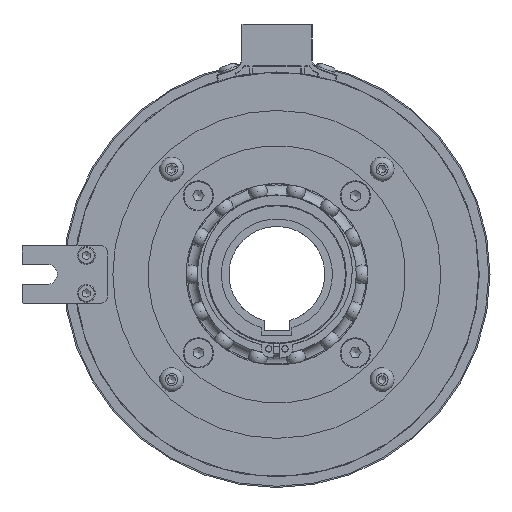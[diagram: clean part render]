
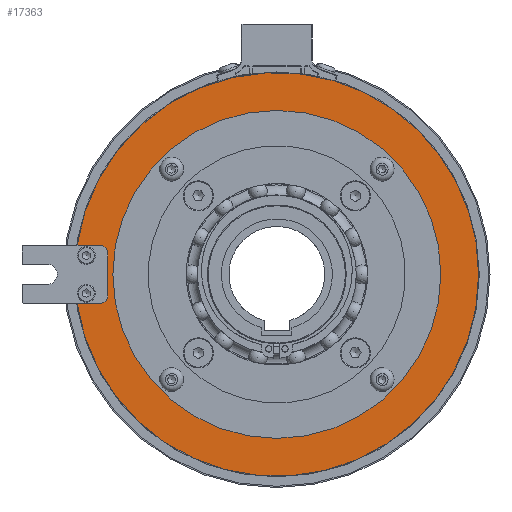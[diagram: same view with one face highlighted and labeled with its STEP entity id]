
A CAD part, left-side view. The second image highlights one B-rep face of the part: STEP entity #17363.
In plain terms, the highlighted planar face has unit normal (-1, 0, 0).
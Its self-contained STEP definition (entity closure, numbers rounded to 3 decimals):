
#1168=FACE_BOUND('',#3431,.T.);
#1681=PLANE('',#19022);
#2422=FACE_OUTER_BOUND('',#3430,.T.);
#3430=EDGE_LOOP('',(#14339,#14340,#14341,#14342,#14343,#14344,#14345,#14346));
#3431=EDGE_LOOP('',(#14347,#14348));
#4373=LINE('',#28266,#5262);
#4383=LINE('',#28294,#5272);
#4395=LINE('',#28324,#5284);
#5262=VECTOR('',#22413,10.);
#5272=VECTOR('',#22439,10.);
#5284=VECTOR('',#22471,10.);
#6035=CIRCLE('',#18348,80.);
#6038=CIRCLE('',#18351,80.);
#6077=CIRCLE('',#18416,80.);
#6245=CIRCLE('',#18751,3.);
#6247=CIRCLE('',#18755,3.);
#6401=CIRCLE('',#19023,65.);
#6402=CIRCLE('',#19024,65.);
#7423=VERTEX_POINT('',#26965);
#7428=VERTEX_POINT('',#26975);
#7429=VERTEX_POINT('',#26977);
#7431=VERTEX_POINT('',#26981);
#7704=VERTEX_POINT('',#28264);
#7711=VERTEX_POINT('',#28284);
#7714=VERTEX_POINT('',#28292);
#7715=VERTEX_POINT('',#28296);
#7954=VERTEX_POINT('',#29117);
#7955=VERTEX_POINT('',#29118);
#9443=EDGE_CURVE('',#7429,#7428,#6035,.T.);
#9446=EDGE_CURVE('',#7423,#7431,#6038,.T.);
#9539=EDGE_CURVE('',#7428,#7423,#6077,.T.);
#9904=EDGE_CURVE('',#7431,#7704,#4373,.T.);
#9913=EDGE_CURVE('',#7704,#7711,#6245,.T.);
#9918=EDGE_CURVE('',#7711,#7714,#4383,.T.);
#9919=EDGE_CURVE('',#7714,#7715,#6247,.T.);
#9934=EDGE_CURVE('',#7715,#7429,#4395,.T.);
#10250=EDGE_CURVE('',#7954,#7955,#6401,.T.);
#10251=EDGE_CURVE('',#7955,#7954,#6402,.T.);
#14339=ORIENTED_EDGE('',*,*,#9934,.T.);
#14340=ORIENTED_EDGE('',*,*,#9443,.T.);
#14341=ORIENTED_EDGE('',*,*,#9539,.T.);
#14342=ORIENTED_EDGE('',*,*,#9446,.T.);
#14343=ORIENTED_EDGE('',*,*,#9904,.T.);
#14344=ORIENTED_EDGE('',*,*,#9913,.T.);
#14345=ORIENTED_EDGE('',*,*,#9918,.T.);
#14346=ORIENTED_EDGE('',*,*,#9919,.T.);
#14347=ORIENTED_EDGE('',*,*,#10250,.T.);
#14348=ORIENTED_EDGE('',*,*,#10251,.T.);
#17363=ADVANCED_FACE('',(#2422,#1168),#1681,.T.);
#18348=AXIS2_PLACEMENT_3D('',#26978,#21401,#21402);
#18351=AXIS2_PLACEMENT_3D('',#26983,#21407,#21408);
#18416=AXIS2_PLACEMENT_3D('',#27470,#21565,#21566);
#18751=AXIS2_PLACEMENT_3D('',#28285,#22430,#22431);
#18755=AXIS2_PLACEMENT_3D('',#28297,#22442,#22443);
#19022=AXIS2_PLACEMENT_3D('',#29116,#23108,#23109);
#19023=AXIS2_PLACEMENT_3D('',#29119,#23110,#23111);
#19024=AXIS2_PLACEMENT_3D('',#29120,#23112,#23113);
#21401=DIRECTION('center_axis',(-1.,0.,0.));
#21402=DIRECTION('ref_axis',(0.,1.,0.));
#21407=DIRECTION('center_axis',(-1.,0.,0.));
#21408=DIRECTION('ref_axis',(0.,1.,0.));
#21565=DIRECTION('center_axis',(-1.,0.,0.));
#21566=DIRECTION('ref_axis',(0.,1.,0.));
#22413=DIRECTION('',(0.,-1.,0.));
#22430=DIRECTION('center_axis',(1.,0.,0.));
#22431=DIRECTION('ref_axis',(0.,-0.707,0.707));
#22439=DIRECTION('',(0.,0.,-1.));
#22442=DIRECTION('center_axis',(1.,0.,0.));
#22443=DIRECTION('ref_axis',(0.,-0.707,-0.707));
#22471=DIRECTION('',(0.,1.,0.));
#23108=DIRECTION('center_axis',(-1.,0.,0.));
#23109=DIRECTION('ref_axis',(0.,0.,
1.));
#23110=DIRECTION('center_axis',(1.,0.,0.));
#23111=DIRECTION('ref_axis',(0.,1.,0.));
#23112=DIRECTION('center_axis',(1.,0.,0.));
#23113=DIRECTION('ref_axis',(0.,1.,0.));
#26965=CARTESIAN_POINT('',(-45.,-9.676,79.413));
#26975=CARTESIAN_POINT('',(-45.,-80.,0.));
#26977=CARTESIAN_POINT('',(-45.,79.169,-11.5));
#26978=CARTESIAN_POINT('Origin',(-45.,0.,
0.));
#26981=CARTESIAN_POINT('',(-45.,79.169,11.5));
#26983=CARTESIAN_POINT('Origin',(-45.,0.,
0.));
#27470=CARTESIAN_POINT('Origin',(-45.,0.,
0.));
#28264=CARTESIAN_POINT('',(-45.,70.,11.5));
#28266=CARTESIAN_POINT('',(-45.,67.25,11.5));
#28284=CARTESIAN_POINT('',(-45.,67.,8.5));
#28285=CARTESIAN_POINT('Origin',(-45.,70.,8.5));
#28292=CARTESIAN_POINT('',(-45.,67.,-8.5));
#28294=CARTESIAN_POINT('',(-45.,67.,-5.75));
#28296=CARTESIAN_POINT('',(-45.,70.,-11.5));
#28297=CARTESIAN_POINT('Origin',(-45.,70.,-8.5));
#28324=CARTESIAN_POINT('',(-45.,84.25,-11.5));
#29116=CARTESIAN_POINT('Origin',(-45.,67.5,0.));
#29117=CARTESIAN_POINT('',(-45.,65.,0.));
#29118=CARTESIAN_POINT('',(-45.,-65.,0.));
#29119=CARTESIAN_POINT('Origin',(-45.,0.,
0.));
#29120=CARTESIAN_POINT('Origin',(-45.,0.,
0.));
